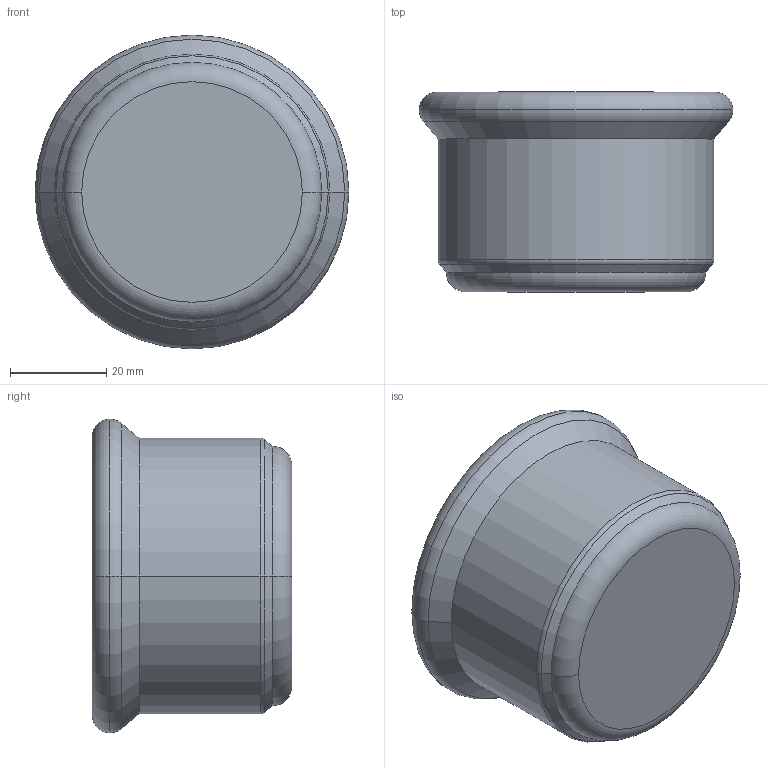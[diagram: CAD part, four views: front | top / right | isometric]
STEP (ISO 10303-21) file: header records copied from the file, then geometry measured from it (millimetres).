
FILE_DESCRIPTION(('OneSpaceDesigner STEP Export'),'2;1');
FILE_NAME('R2729 54.stp','2010-06-10T13:36:39',(''),(''),'OneSpace Designer STEP processor for AP214 (Solid Model)','OneSpace Modeling 15.00A 14-Mar-2007 (C) CoCreate Software GmbH','');
FILE_SCHEMA(('AUTOMOTIVE_DESIGN { 1 0 10303 214 1 1 1 1 }'));
Length unit declared in the file: millimetre
Products named in the file (2): R2729_54
Assembly tree (1 placements, depth 2):
  R2729_54
    R2729_54
Bounding box: 65.3 x 41.55 x 65.3 mm (x, y, z)
Volume: 24904.8 mm3; surface area: 21298.3 mm2
Topology: 1 solids, 1 shells, 61 faces, 148 edges, 95 vertices
Faces by surface type: plane 32, cylinder 17, torus 8, cone 4
Entity records: 1612 total; most frequent: ORIENTED_EDGE 296, CARTESIAN_POINT 258, DIRECTION 239, EDGE_CURVE 148, VERTEX_POINT 95, VECTOR 87, LINE 87, AXIS2_PLACEMENT_3D 76
